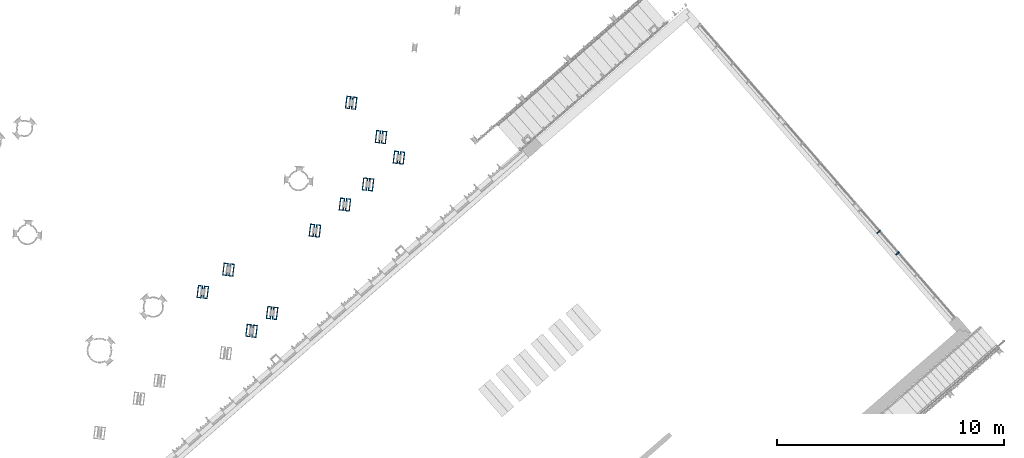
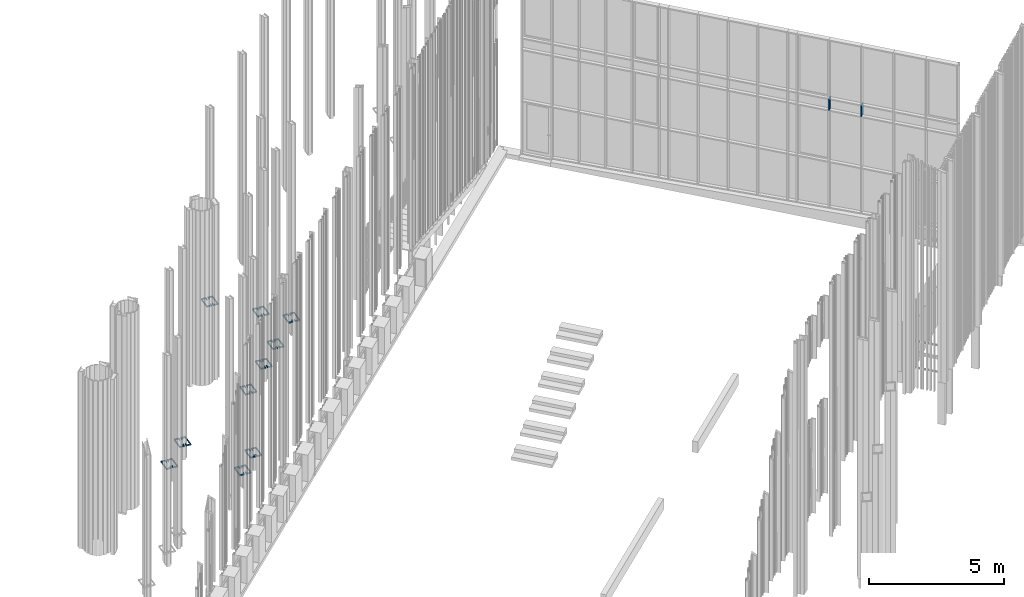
# One storey, part 67 of 390: 22 discrete accessories, 1 element without a shape of its own.
"""IFC2X3 building model written with IfcOpenShell, lengths in millimetres."""

from ifc_helpers import new_model, entity, si_unit, converted_unit, derived_unit, money_unit, direction, frame, origin_with_axes, place, context, subcontext, project, spatial, polyline, outline, extrude, material, material_list, type_object, element, aggregate, save


model = new_model("IFC2X3")

# Units and contexts
model_context = context("Model", 3, precision=1e-05, world=origin_with_axes(), true_north=direction((0.0, 1.0)))
body_context = subcontext(model_context, "Body", "Model", "MODEL_VIEW")
ifc_project = project(units=[si_unit("LENGTHUNIT", "METRE", prefix="MILLI"), si_unit("AREAUNIT", "SQUARE_METRE"), si_unit("VOLUMEUNIT", "CUBIC_METRE"), converted_unit("PLANEANGLEUNIT", "DEGREE", entity("IfcPlaneAngleMeasure", 0.0174532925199), si_unit("PLANEANGLEUNIT", "RADIAN"), dimensions=[0, 0, 0, 0, 0, 0, 0]), si_unit("SOLIDANGLEUNIT", "STERADIAN"), money_unit("EUR"), converted_unit("TIMEUNIT", "Year", entity("IfcTimeMeasure", 31556926.0), si_unit("TIMEUNIT", "SECOND"), dimensions=[0, 0, 1, 0, 0, 0, 0]), si_unit("MASSUNIT", "GRAM", prefix="KILO"), si_unit("THERMODYNAMICTEMPERATUREUNIT", "DEGREE_CELSIUS"), si_unit("LUMINOUSINTENSITYUNIT", "LUMEN"), si_unit("ENERGYUNIT", "JOULE", prefix="MEGA"), derived_unit("THERMALCONDUCTANCEUNIT", [(si_unit("POWERUNIT", "WATT"), 1), (si_unit("LENGTHUNIT", "METRE"), -1), (si_unit("THERMODYNAMICTEMPERATUREUNIT", "KELVIN"), -1)]), derived_unit("SPECIFICHEATCAPACITYUNIT", [(si_unit("ENERGYUNIT", "JOULE"), 1), (si_unit("MASSUNIT", "GRAM", prefix="KILO"), -1), (si_unit("THERMODYNAMICTEMPERATUREUNIT", "KELVIN"), -1)]), derived_unit("MASSDENSITYUNIT", [(si_unit("MASSUNIT", "GRAM", prefix="KILO"), 1), (si_unit("VOLUMEUNIT", "CUBIC_METRE"), -1)])], contexts=[model_context])

# Site, building, storey
site_placement = place(None, origin_with_axes())
site = spatial("IfcSite", under=ifc_project, at=site_placement, Name="Site", CompositionType="ELEMENT")
building_placement = place(site_placement, origin_with_axes())
building = spatial("IfcBuilding", under=site, at=building_placement, Name="Building", CompositionType="ELEMENT")
storey_placement = place(building_placement, origin_with_axes())
storey = spatial("IfcBuildingStorey", under=building, at=storey_placement, Name="1 korrus", CompositionType="ELEMENT", Elevation=0.0)

# Curtain wall, discrete accessories
curtain_wall_type = type_object("IfcCurtainWallType", Name="KLF-17", PredefinedType="NOTDEFINED")
curtain_wall_placement = place(storey_placement, frame((175630.823927, 104534.758561, -0.000216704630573), z_axis=(0.0, 0.0, 1.0), x_axis=(1.0, 0.0, 0.0)))
curtain_wall = element("IfcCurtainWall", 1, at=curtain_wall_placement, inside=storey, type_object=curtain_wall_type, Name="Klaasfassaad")
ifc_material_1 = material(Name="Aluminium MUST")
ifc_material_list = material_list([ifc_material_1, ifc_material_1])
discrete_accessory_type_1 = type_object("IfcDiscreteAccessoryType", Name="50 x 200")
discrete_accessory_1_placement = place(curtain_wall_placement, frame((-413.317188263, 475.467035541, 4720.0002167), z_axis=(0.0, 0.0, 1.0), x_axis=(-0.65605902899, 0.754709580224, 0.0)))
discrete_accessory_1 = element("IfcDiscreteAccessory", 2, at=discrete_accessory_1_placement, type_object=discrete_accessory_type_1, material=ifc_material_list, Name="KLF-17 profiil", context=body_context, shape_type="SweptSolid", body=[
    extrude(outline(polyline([(-129.607912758, -79.5411148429), (-96.8049613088, -117.276593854), (8.8543799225, -25.4283297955), (-23.948571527, 12.3071492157), (-129.607912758, -79.5411148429)])), frame((0.0, 0.0, 0.0), z_axis=(0.0, 0.0, 1.0), x_axis=(-0.65605902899, -0.754709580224, 0.0)), (0.0, 0.0, 1.0), 520.0),
    extrude(outline(polyline([(54.1369547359, 13.9352119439), (21.3340032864, 51.670690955), (-8.8543799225, 25.4283297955), (23.948571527, -12.3071492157), (54.1369547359, 13.9352119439)])), frame((0.0, 0.0, 0.0), z_axis=(0.0, 0.0, 1.0), x_axis=(-0.65605902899, -0.754709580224, 0.0)), (0.0, 0.0, 1.0), 520.0),
])
discrete_accessory_2_placement = place(curtain_wall_placement, frame((413.317188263, -475.467035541, 4720.0002167), z_axis=(0.0, 0.0, 1.0), x_axis=(-0.65605902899, 0.754709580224, 0.0)))
discrete_accessory_2 = element("IfcDiscreteAccessory", 3, at=discrete_accessory_2_placement, type_object=discrete_accessory_type_1, material=ifc_material_list, Name="KLF-17 profiil", context=body_context, shape_type="SweptSolid", body=[
    extrude(outline(polyline([(-129.607912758, -79.5411148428), (-96.8049613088, -117.276593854), (8.85437992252, -25.4283297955), (-23.948571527, 12.3071492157), (-129.607912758, -79.5411148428)])), frame((0.0, 0.0, 0.0), z_axis=(0.0, 0.0, 1.0), x_axis=(-0.65605902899, -0.754709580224, 0.0)), (0.0, 0.0, 1.0), 520.0),
    extrude(outline(polyline([(54.1369547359, 13.9352119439), (21.3340032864, 51.6706909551), (-8.8543799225, 25.4283297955), (23.948571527, -12.3071492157), (54.1369547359, 13.9352119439)])), frame((0.0, 0.0, 0.0), z_axis=(0.0, 0.0, 1.0), x_axis=(-0.65605902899, -0.754709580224, 0.0)), (0.0, 0.0, 1.0), 520.0),
])
aggregate(curtain_wall, [discrete_accessory_1, discrete_accessory_2])

# Discrete accessories
ifc_material_2 = material(Name="Teras (musta värvi)")
discrete_accessory_type_2 = type_object("IfcDiscreteAccessoryType", Name="Teras (musta värvi) 60")
for number, where, z_axis, x_axis in (
    (4, (151944.042644, 106422.16689, 740.0), (0.0, 0.0, 1.0), (1.0, 0.0, 0.0)),
    (5, (150623.300879, 105274.063589, 740.0), (0.0, 0.0, 1.0), (1.0, 0.0, 0.0)),
    (6, (148739.493018, 101648.974908, 740.0), (0.0, 0.0, 1.0), (1.0, 0.0, 0.0)),
):
    element("IfcDiscreteAccessory", number, at=place(storey_placement, frame(where, z_axis=z_axis, x_axis=x_axis)), inside=storey, type_object=discrete_accessory_type_2, material=ifc_material_2, Name="Rattahoidja", context=body_context, shape_type="SweptSolid", body=[
        extrude(outline(polyline([(0.0, 0.0), (-203.471963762, 24.9832132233), (-218.705629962, -99.0850523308), (-188.929244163, -102.741136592), (-177.351660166, -8.44924858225), (-33.4324618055, -26.1203035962), (-93.1484414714, -512.467919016), (-237.067631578, -494.79686606), (-225.49004758, -400.504978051), (-255.266435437, -396.848902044), (-270.500101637, -520.917167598), (-67.0281378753, -545.900380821), (0.0, 0.0)])), frame((0.0, 0.0, -60.0), z_axis=(0.0, 0.0, 1.0), x_axis=(1.0, 0.0, 0.0)), (0.0, 0.0, 1.0), 60.0),
    ])
discrete_accessory_3_placement = place(storey_placement, frame((150156.804188, 105331.34218, 740.0), z_axis=(0.0, 0.0, 1.0), x_axis=(1.0, 0.0, 0.0)))
element("IfcDiscreteAccessory", 7, at=discrete_accessory_3_placement, inside=storey, type_object=discrete_accessory_type_2, material=ifc_material_2, Name="Rattahoidja", context=body_context, shape_type="SweptSolid", body=[
    extrude(outline(polyline([(0.0, 0.0), (-67.0281391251, -545.900380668), (136.443824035, -570.883598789), (151.677492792, -446.815333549), (121.901106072, -443.159248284), (110.323514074, -537.451135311), (-33.5956756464, -519.780079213), (26.1203014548, -33.4324634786), (170.039499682, -51.1035195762), (158.461907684, -145.395406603), (188.238294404, -149.051483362), (203.471963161, -24.9832181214), (0.0, 0.0)])), frame((0.0, 0.0, -60.0), z_axis=(0.0, 0.0, 1.0), x_axis=(1.0, 0.0, 0.0)), (0.0, 0.0, 1.0), 60.0),
])
discrete_accessory_4_placement = place(storey_placement, frame((145685.127353, 102571.390425, 740.0), z_axis=(0.0, 0.0, 1.0), x_axis=(1.0, 0.0, 0.0)))
element("IfcDiscreteAccessory", 8, at=discrete_accessory_4_placement, inside=storey, type_object=discrete_accessory_type_2, material=ifc_material_2, Name="Rattahoidja", context=body_context, shape_type="SweptSolid", body=[
    extrude(outline(polyline([(0.0, 0.0), (-203.471963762, 24.9832132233), (-218.705629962, -99.0850523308), (-188.929244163, -102.741136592), (-177.351660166, -8.44924858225), (-33.4324618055, -26.1203035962), (-93.1484414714, -512.467919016), (-237.067631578, -494.79686606), (-225.49004758, -400.504978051), (-255.266435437, -396.848902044), (-270.500101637, -520.917167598), (-67.0281378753, -545.900380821), (0.0, 0.0)])), frame((0.0, 0.0, -60.0), z_axis=(0.0, 0.0, 1.0), x_axis=(1.0, 0.0, 0.0)), (0.0, 0.0, 1.0), 60.0),
])
discrete_accessory_5_placement = place(storey_placement, frame((145218.630662, 102628.669017, 740.0), z_axis=(0.0, 0.0, 1.0), x_axis=(1.0, 0.0, 0.0)))
element("IfcDiscreteAccessory", 9, at=discrete_accessory_5_placement, inside=storey, type_object=discrete_accessory_type_2, material=ifc_material_2, Name="Rattahoidja", context=body_context, shape_type="SweptSolid", body=[
    extrude(outline(polyline([(0.0, 0.0), (-67.0281391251, -545.900380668), (136.443824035, -570.883598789), (151.677492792, -446.815333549), (121.901106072, -443.159248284), (110.323514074, -537.451135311), (-33.5956756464, -519.780079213), (26.1203014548, -33.4324634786), (170.039499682, -51.1035195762), (158.461907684, -145.395406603), (188.238294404, -149.051483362), (203.471963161, -24.9832181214), (0.0, 0.0)])), frame((0.0, 0.0, -60.0), z_axis=(0.0, 0.0, 1.0), x_axis=(1.0, 0.0, 0.0)), (0.0, 0.0, 1.0), 60.0),
])
discrete_accessory_6_placement = place(storey_placement, frame((146817.191723, 103555.478969, 740.0), z_axis=(0.0, 0.0, 1.0), x_axis=(1.0, 0.0, 0.0)))
element("IfcDiscreteAccessory", 10, at=discrete_accessory_6_placement, inside=storey, type_object=discrete_accessory_type_2, material=ifc_material_2, Name="Rattahoidja", context=body_context, shape_type="SweptSolid", body=[
    extrude(outline(polyline([(0.0, 0.0), (-203.471963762, 24.9832132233), (-218.705629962, -99.0850523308), (-188.929244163, -102.741136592), (-177.351660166, -8.44924858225), (-33.4324618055, -26.1203035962), (-93.1484414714, -512.467919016), (-237.067631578, -494.79686606), (-225.49004758, -400.504978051), (-255.266435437, -396.848902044), (-270.500101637, -520.917167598), (-67.0281378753, -545.900380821), (0.0, 0.0)])), frame((0.0, 0.0, -60.0), z_axis=(0.0, 0.0, 1.0), x_axis=(1.0, 0.0, 0.0)), (0.0, 0.0, 1.0), 60.0),
])
for number, where, z_axis, x_axis in (
    (11, (146350.695032, 103612.75756, 740.0), (0.0, 0.0, 1.0), (1.0, 0.0, 0.0)),
    (12, (148272.996327, 101706.2535, 740.0), (0.0, 0.0, 1.0), (1.0, 0.0, 0.0)),
):
    element("IfcDiscreteAccessory", number, at=place(storey_placement, frame(where, z_axis=z_axis, x_axis=x_axis)), inside=storey, type_object=discrete_accessory_type_2, material=ifc_material_2, Name="Rattahoidja", context=body_context, shape_type="SweptSolid", body=[
        extrude(outline(polyline([(0.0, 0.0), (-67.0281391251, -545.900380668), (136.443824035, -570.883598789), (151.677492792, -446.815333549), (121.901106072, -443.159248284), (110.323514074, -537.451135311), (-33.5956756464, -519.780079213), (26.1203014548, -33.4324634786), (170.039499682, -51.1035195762), (158.461907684, -145.395406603), (188.238294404, -149.051483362), (203.471963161, -24.9832181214), (0.0, 0.0)])), frame((0.0, 0.0, -60.0), z_axis=(0.0, 0.0, 1.0), x_axis=(1.0, 0.0, 0.0)), (0.0, 0.0, 1.0), 60.0),
    ])
discrete_accessory_7_placement = place(storey_placement, frame((152962.900577, 107307.846579, 740.0), z_axis=(0.0, 0.0, 1.0), x_axis=(1.0, 0.0, 0.0)))
element("IfcDiscreteAccessory", 13, at=discrete_accessory_7_placement, inside=storey, type_object=discrete_accessory_type_2, material=ifc_material_2, Name="Rattahoidja", context=body_context, shape_type="SweptSolid", body=[
    extrude(outline(polyline([(0.0, 0.0), (-203.471963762, 24.9832132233), (-218.705629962, -99.0850523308), (-188.929244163, -102.741136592), (-177.351660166, -8.44924858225), (-33.4324618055, -26.1203035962), (-93.1484414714, -512.467919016), (-237.067631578, -494.79686606), (-225.49004758, -400.504978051), (-255.266435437, -396.848902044), (-270.500101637, -520.917167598), (-67.0281378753, -545.900380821), (0.0, 0.0)])), frame((0.0, 0.0, -60.0), z_axis=(0.0, 0.0, 1.0), x_axis=(1.0, 0.0, 0.0)), (0.0, 0.0, 1.0), 60.0),
])
for number, where, z_axis, x_axis in (
    (14, (151477.545953, 106479.445481, 740.0), (0.0, 0.0, 1.0), (1.0, 0.0, 0.0)),
    (15, (147367.344831, 100918.982665, 740.0), (0.0, 0.0, 1.0), (1.0, 0.0, 0.0)),
):
    element("IfcDiscreteAccessory", number, at=place(storey_placement, frame(where, z_axis=z_axis, x_axis=x_axis)), inside=storey, type_object=discrete_accessory_type_2, material=ifc_material_2, Name="Rattahoidja", context=body_context, shape_type="SweptSolid", body=[
        extrude(outline(polyline([(0.0, 0.0), (-67.0281391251, -545.900380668), (136.443824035, -570.883598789), (151.677492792, -446.815333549), (121.901106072, -443.159248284), (110.323514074, -537.451135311), (-33.5956756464, -519.780079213), (26.1203014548, -33.4324634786), (170.039499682, -51.1035195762), (158.461907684, -145.395406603), (188.238294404, -149.051483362), (203.471963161, -24.9832181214), (0.0, 0.0)])), frame((0.0, 0.0, -60.0), z_axis=(0.0, 0.0, 1.0), x_axis=(1.0, 0.0, 0.0)), (0.0, 0.0, 1.0), 60.0),
    ])
discrete_accessory_8_placement = place(storey_placement, frame((147833.841521, 100861.704073, 740.0), z_axis=(0.0, 0.0, 1.0), x_axis=(1.0, 0.0, 0.0)))
element("IfcDiscreteAccessory", 16, at=discrete_accessory_8_placement, inside=storey, type_object=discrete_accessory_type_2, material=ifc_material_2, Name="Rattahoidja", context=body_context, shape_type="SweptSolid", body=[
    extrude(outline(polyline([(0.0, 0.0), (-203.471963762, 24.9832132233), (-218.705629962, -99.0850523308), (-188.929244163, -102.741136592), (-177.351660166, -8.44924858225), (-33.4324618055, -26.1203035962), (-93.1484414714, -512.467919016), (-237.067631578, -494.79686606), (-225.49004758, -400.504978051), (-255.266435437, -396.848902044), (-270.500101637, -520.917167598), (-67.0281378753, -545.900380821), (0.0, 0.0)])), frame((0.0, 0.0, -60.0), z_axis=(0.0, 0.0, 1.0), x_axis=(1.0, 0.0, 0.0)), (0.0, 0.0, 1.0), 60.0),
])
discrete_accessory_9_placement = place(storey_placement, frame((151755.492238, 110961.102079, 740.0), z_axis=(0.0, 0.0, 1.0), x_axis=(1.0, 0.0, 0.0)))
element("IfcDiscreteAccessory", 17, at=discrete_accessory_9_placement, inside=storey, type_object=discrete_accessory_type_2, material=ifc_material_2, Name="Rattahoidja", context=body_context, shape_type="SweptSolid", body=[
    extrude(outline(polyline([(0.0, 0.0), (-67.0281391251, -545.900380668), (136.443824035, -570.883598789), (151.677492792, -446.815333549), (121.901106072, -443.159248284), (110.323514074, -537.451135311), (-33.5956756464, -519.780079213), (26.1203014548, -33.4324634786), (170.039499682, -51.1035195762), (158.461907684, -145.395406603), (188.238294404, -149.051483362), (203.471963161, -24.9832181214), (0.0, 0.0)])), frame((0.0, 0.0, -60.0), z_axis=(0.0, 0.0, 1.0), x_axis=(1.0, 0.0, 0.0)), (0.0, 0.0, 1.0), 60.0),
])
discrete_accessory_10_placement = place(storey_placement, frame((152221.988929, 110903.823488, 740.0), z_axis=(0.0, 0.0, 1.0), x_axis=(1.0, 0.0, 0.0)))
element("IfcDiscreteAccessory", 18, at=discrete_accessory_10_placement, inside=storey, type_object=discrete_accessory_type_2, material=ifc_material_2, Name="Rattahoidja", context=body_context, shape_type="SweptSolid", body=[
    extrude(outline(polyline([(0.0, 0.0), (-203.471963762, 24.9832132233), (-218.705629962, -99.0850523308), (-188.929244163, -102.741136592), (-177.351660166, -8.44924858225), (-33.4324618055, -26.1203035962), (-93.1484414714, -512.467919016), (-237.067631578, -494.79686606), (-225.49004758, -400.504978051), (-255.266435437, -396.848902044), (-270.500101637, -520.917167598), (-67.0281378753, -545.900380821), (0.0, 0.0)])), frame((0.0, 0.0, -60.0), z_axis=(0.0, 0.0, 1.0), x_axis=(1.0, 0.0, 0.0)), (0.0, 0.0, 1.0), 60.0),
])
discrete_accessory_11_placement = place(storey_placement, frame((153067.610296, 109451.682919, 740.0), z_axis=(0.0, 0.0, 1.0), x_axis=(1.0, 0.0, 0.0)))
element("IfcDiscreteAccessory", 19, at=discrete_accessory_11_placement, inside=storey, type_object=discrete_accessory_type_2, material=ifc_material_2, Name="Rattahoidja", context=body_context, shape_type="SweptSolid", body=[
    extrude(outline(polyline([(0.0, 0.0), (-67.0281391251, -545.900380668), (136.443824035, -570.883598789), (151.677492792, -446.815333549), (121.901106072, -443.159248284), (110.323514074, -537.451135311), (-33.5956756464, -519.780079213), (26.1203014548, -33.4324634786), (170.039499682, -51.1035195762), (158.461907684, -145.395406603), (188.238294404, -149.051483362), (203.471963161, -24.9832181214), (0.0, 0.0)])), frame((0.0, 0.0, -60.0), z_axis=(0.0, 0.0, 1.0), x_axis=(1.0, 0.0, 0.0)), (0.0, 0.0, 1.0), 60.0),
])
discrete_accessory_12_placement = place(storey_placement, frame((153534.106987, 109394.404328, 740.0), z_axis=(0.0, 0.0, 1.0), x_axis=(1.0, 0.0, 0.0)))
element("IfcDiscreteAccessory", 20, at=discrete_accessory_12_placement, inside=storey, type_object=discrete_accessory_type_2, material=ifc_material_2, Name="Rattahoidja", context=body_context, shape_type="SweptSolid", body=[
    extrude(outline(polyline([(0.0, 0.0), (-203.471963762, 24.9832132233), (-218.705629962, -99.0850523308), (-188.929244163, -102.741136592), (-177.351660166, -8.44924858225), (-33.4324618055, -26.1203035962), (-93.1484414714, -512.467919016), (-237.067631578, -494.79686606), (-225.49004758, -400.504978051), (-255.266435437, -396.848902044), (-270.500101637, -520.917167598), (-67.0281378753, -545.900380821), (0.0, 0.0)])), frame((0.0, 0.0, -60.0), z_axis=(0.0, 0.0, 1.0), x_axis=(1.0, 0.0, 0.0)), (0.0, 0.0, 1.0), 60.0),
])
discrete_accessory_13_placement = place(storey_placement, frame((153854.881131, 108546.031423, 740.0), z_axis=(0.0, 0.0, 1.0), x_axis=(1.0, 0.0, 0.0)))
element("IfcDiscreteAccessory", 21, at=discrete_accessory_13_placement, inside=storey, type_object=discrete_accessory_type_2, material=ifc_material_2, Name="Rattahoidja", context=body_context, shape_type="SweptSolid", body=[
    extrude(outline(polyline([(0.0, 0.0), (-67.0281391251, -545.900380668), (136.443824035, -570.883598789), (151.677492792, -446.815333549), (121.901106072, -443.159248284), (110.323514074, -537.451135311), (-33.5956756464, -519.780079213), (26.1203014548, -33.4324634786), (170.039499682, -51.1035195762), (158.461907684, -145.395406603), (188.238294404, -149.051483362), (203.471963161, -24.9832181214), (0.0, 0.0)])), frame((0.0, 0.0, -60.0), z_axis=(0.0, 0.0, 1.0), x_axis=(1.0, 0.0, 0.0)), (0.0, 0.0, 1.0), 60.0),
])
discrete_accessory_14_placement = place(storey_placement, frame((154321.377822, 108488.752831, 740.0), z_axis=(0.0, 0.0, 1.0), x_axis=(1.0, 0.0, 0.0)))
element("IfcDiscreteAccessory", 22, at=discrete_accessory_14_placement, inside=storey, type_object=discrete_accessory_type_2, material=ifc_material_2, Name="Rattahoidja", context=body_context, shape_type="SweptSolid", body=[
    extrude(outline(polyline([(0.0, 0.0), (-203.471963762, 24.9832132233), (-218.705629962, -99.0850523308), (-188.929244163, -102.741136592), (-177.351660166, -8.44924858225), (-33.4324618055, -26.1203035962), (-93.1484414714, -512.467919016), (-237.067631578, -494.79686606), (-225.49004758, -400.504978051), (-255.266435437, -396.848902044), (-270.500101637, -520.917167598), (-67.0281378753, -545.900380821), (0.0, 0.0)])), frame((0.0, 0.0, -60.0), z_axis=(0.0, 0.0, 1.0), x_axis=(1.0, 0.0, 0.0)), (0.0, 0.0, 1.0), 60.0),
])
discrete_accessory_15_placement = place(storey_placement, frame((152496.403887, 107365.12517, 740.0), z_axis=(0.0, 0.0, 1.0), x_axis=(1.0, 0.0, 0.0)))
element("IfcDiscreteAccessory", 23, at=discrete_accessory_15_placement, inside=storey, type_object=discrete_accessory_type_2, material=ifc_material_2, Name="Rattahoidja", context=body_context, shape_type="SweptSolid", body=[
    extrude(outline(polyline([(0.0, 0.0), (-67.0281391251, -545.900380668), (136.443824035, -570.883598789), (151.677492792, -446.815333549), (121.901106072, -443.159248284), (110.323514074, -537.451135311), (-33.5956756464, -519.780079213), (26.1203014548, -33.4324634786), (170.039499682, -51.1035195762), (158.461907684, -145.395406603), (188.238294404, -149.051483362), (203.471963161, -24.9832181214), (0.0, 0.0)])), frame((0.0, 0.0, -60.0), z_axis=(0.0, 0.0, 1.0), x_axis=(1.0, 0.0, 0.0)), (0.0, 0.0, 1.0), 60.0),
])

save(model, "model.ifc")
